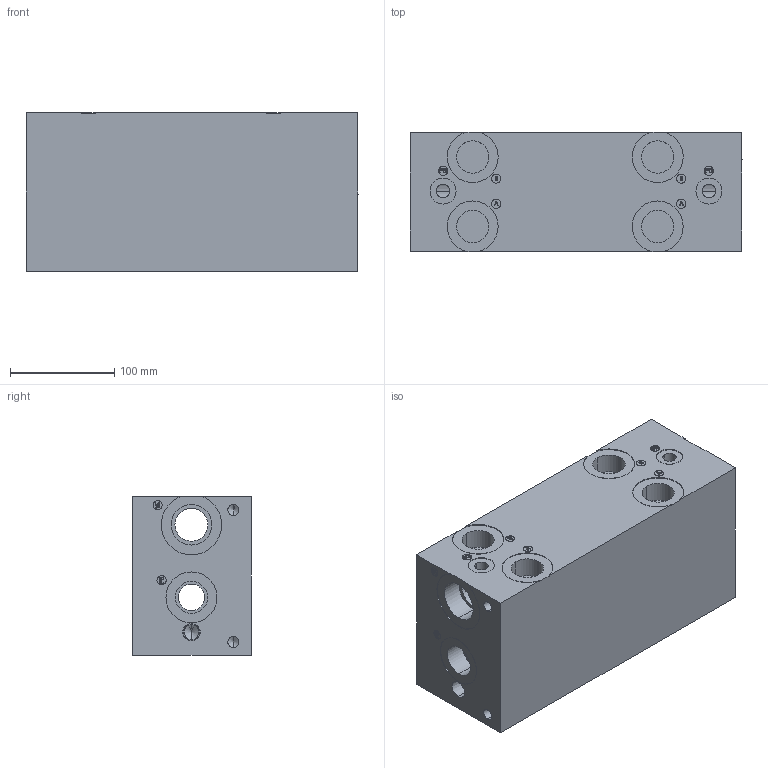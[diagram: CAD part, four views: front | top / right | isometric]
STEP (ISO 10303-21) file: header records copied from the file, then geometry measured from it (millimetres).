
FILE_DESCRIPTION (( 'STEP AP203' ), '1' );
FILE_NAME ('BM-ASS08S7-02-0_Z.STEP', '2015-01-06T16:28:00', ( '' ), ( '' ), 'SwSTEP 2.0', 'SolidWorks 2014', '' );
FILE_SCHEMA (( 'CONFIG_CONTROL_DESIGN' ));
Length unit declared in the file: inch
Products named in the file (1): BM-ASS08S7-02-0_Z
Bounding box: 319.02 x 114.3 x 152.4 mm (x, y, z)
Volume: 4962648 mm3; surface area: 292420 mm2
Topology: 1 solids, 1 shells, 509 faces, 1261 edges, 784 vertices
Faces by surface type: plane 218, cylinder 159, cone 72, bspline 60
Entity records: 18319 total; most frequent: CARTESIAN_POINT 6630, ORIENTED_EDGE 2386, DIRECTION 2287, EDGE_CURVE 1193, VERTEX_POINT 784, AXIS2_PLACEMENT_3D 772, LINE 743, VECTOR 743
